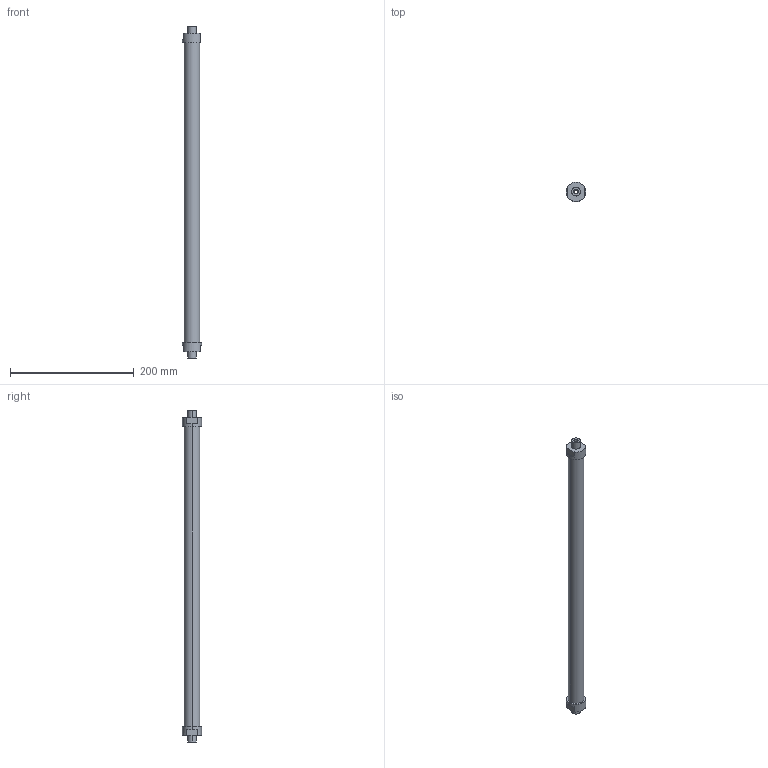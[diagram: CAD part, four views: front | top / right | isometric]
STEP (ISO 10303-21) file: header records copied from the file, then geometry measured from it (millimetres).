
FILE_DESCRIPTION(('STEP AP214'),'1');
FILE_NAME('ETT-R050G524.stp','2015-02-02T12:58:02',(' '),(' '),'Spatial InterOp 3D',' ',' ');
FILE_SCHEMA(('automotive_design'));
Length unit declared in the file: metre
Products named in the file (3): 1; 2; 3
Bounding box: 31 x 31 x 536 mm (x, y, z)
Volume: 247169.5 mm3; surface area: 54398.6 mm2
Topology: 1 solids, 7 shells, 31 faces, 83 edges, 64 vertices
Faces by surface type: cylinder 16, plane 15
Entity records: 1332 total; most frequent: DIRECTION 199, CARTESIAN_POINT 181, ORIENTED_EDGE 142, EDGE_CURVE 83, AXIS2_PLACEMENT_3D 82, VERTEX_POINT 64, CIRCLE 48, EDGE_LOOP 39
